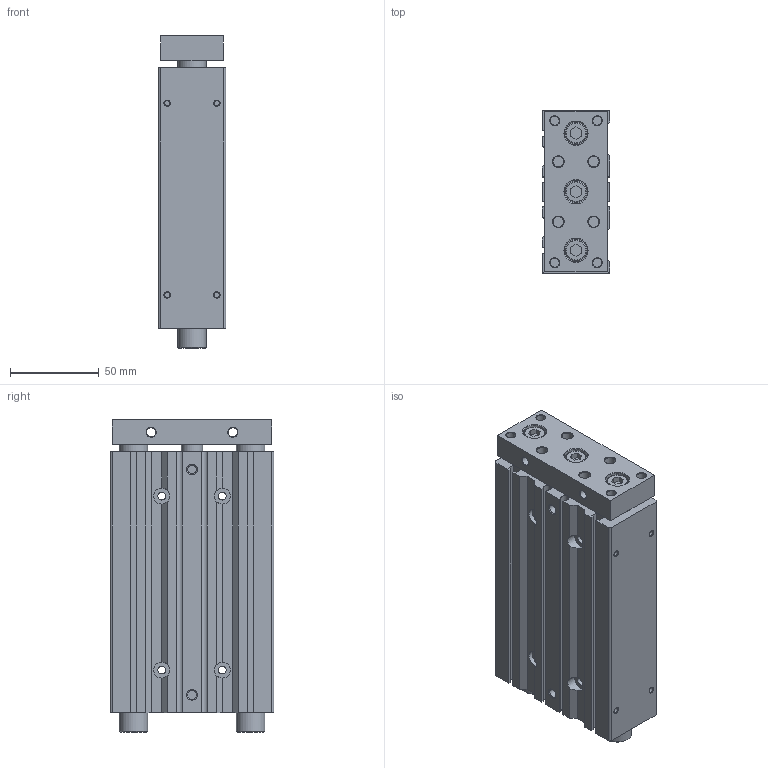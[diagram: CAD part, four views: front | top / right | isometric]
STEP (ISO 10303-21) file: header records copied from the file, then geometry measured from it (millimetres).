
FILE_DESCRIPTION((''),'2;1');
FILE_NAME('I:\3D電子目錄\氣缸\TB(U)\TB(U)25\TB(U)25\TB(U)25x100.stp','2007-08-06T08:23:54',('Administrator'),(''),'Autodesk Inventor 2008','Autodesk Inventor 2008','');
FILE_SCHEMA(('AUTOMOTIVE_DESIGN { 1 0 10303 214 1 1 1 1 }'));
Length unit declared in the file: millimetre
Products named in the file (1): TB(U)25X100
Bounding box: 38 x 92 x 176 mm (x, y, z)
Volume: 516237.9 mm3; surface area: 75233.3 mm2
Topology: 1 solids, 1 shells, 214 faces, 500 edges, 318 vertices
Faces by surface type: plane 104, cylinder 48, cone 39, bspline 20, torus 3
Full cylindrical faces by diameter (mm): 3 x4, 4.4 x4, 5 x6, 6 x8, 9 x4, 12 x4, 13 x3, 16 x4, 21 x2, 28 x1
Entity records: 5814 total; most frequent: CARTESIAN_POINT 1133, DIRECTION 968, ORIENTED_EDGE 808, EDGE_CURVE 404, AXIS2_PLACEMENT_3D 369, EDGE_LOOP 368, VERTEX_POINT 314, VECTOR 230
